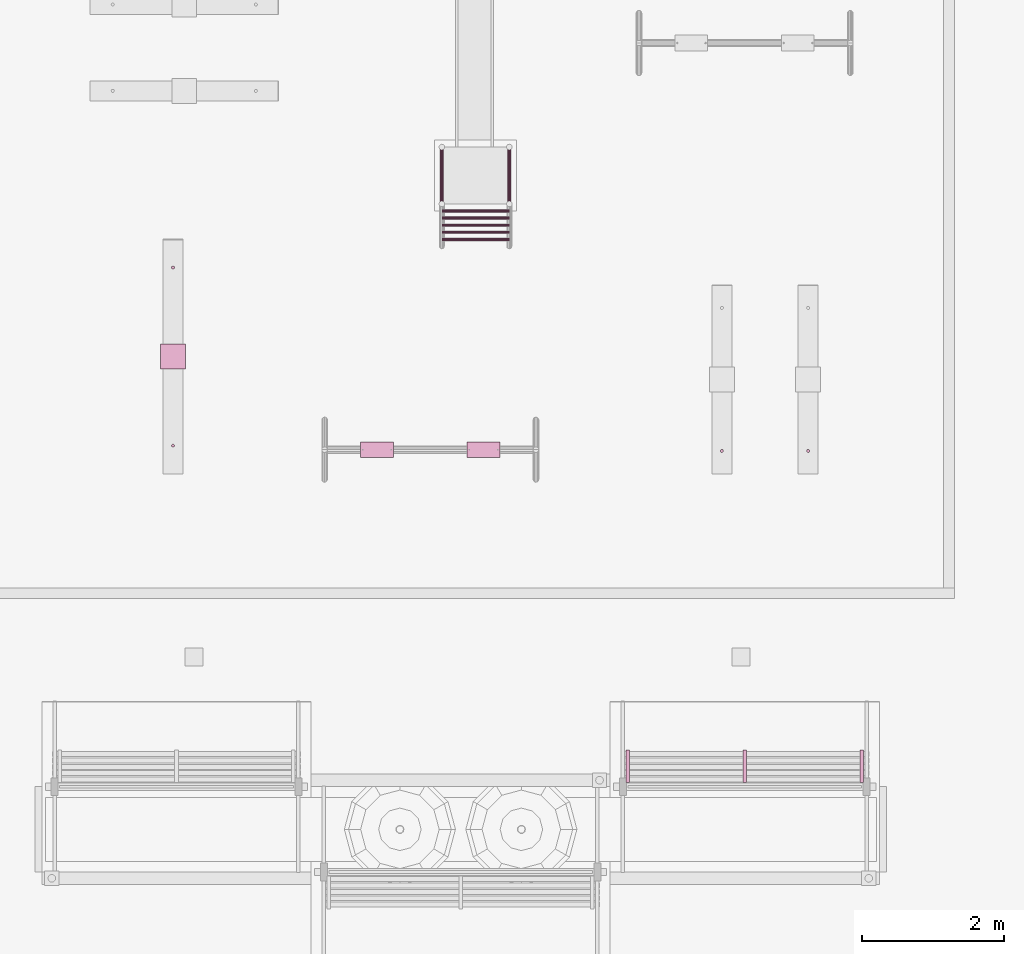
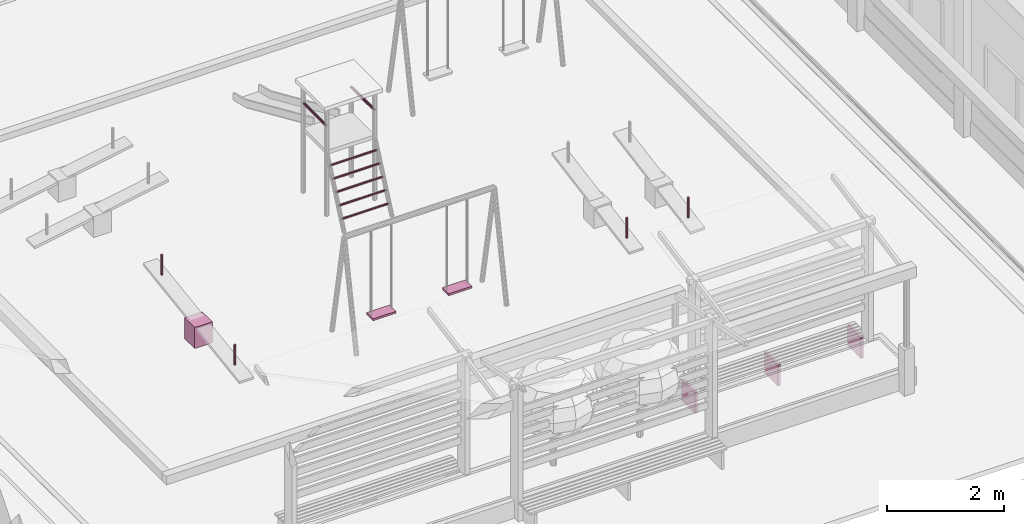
# One storey, part 150 of 177: 17 furnishings.
"""IFC4 building model written with IfcOpenShell, lengths in metres."""

from ifc_helpers import new_model, si_unit, origin, origin_with_axes, place, context, subcontext, project, spatial, triangles, element, save


model = new_model("IFC4")

# Units and contexts
model_context = context("Model", 3, precision=1e-05, world=origin_with_axes())
body_context = subcontext(model_context, "Body", "Model", "MODEL_VIEW")
ifc_project = project(units=[si_unit("LENGTHUNIT", "METRE"), si_unit("AREAUNIT", "SQUARE_METRE"), si_unit("VOLUMEUNIT", "CUBIC_METRE"), si_unit("PLANEANGLEUNIT", "RADIAN")], contexts=[model_context])

# Site, building, storey
site_placement = place(None, origin_with_axes())
site = spatial("IfcSite", under=ifc_project, at=site_placement, Name="Predio Los Mangos - Morales, San Martín", CompositionType="ELEMENT")
building_placement = place(site_placement, origin())
building = spatial("IfcBuilding", under=site, at=building_placement, Name="Hogar de Refugio Temporal", CompositionType="ELEMENT")
storey_placement = place(building_placement, origin())
storey = spatial("IfcBuildingStorey", under=building, at=storey_placement, Name="NIVEL 1 (NPT +0.00)", CompositionType="ELEMENT", Elevation=0.0)

# Furnishings
furnishing_1_placement = place(storey_placement, origin())
element("IfcFurnishingElement", 1, at=furnishing_1_placement, inside=storey, Name="balancin_manija", ObjectType="Mobiliario exterior / juegos", context=body_context, shape_type="Tessellation", body=[
    triangles([(38.4772, 79.704, 0.3876), (38.4772, 79.704, 0.8076), (38.4662, 79.7069, 0.3876), (38.4662, 79.7069, 0.8076), (38.4582, 79.715, 0.3876), (38.4582, 79.715, 0.8076), (38.4552, 79.726, 0.3876), (38.4552, 79.726, 0.8076), (38.4582, 79.737, 0.3876), (38.4582, 79.737, 0.8076), (38.4662, 79.745, 0.3876), (38.4662, 79.745, 0.8076), (38.4772, 79.748, 0.3876), (38.4772, 79.748, 0.8076), (38.4883, 79.745, 0.3876), (38.4883, 79.745, 0.8076), (38.4963, 79.737, 0.3876), (38.4963, 79.737, 0.8076), (38.4992, 79.726, 0.3876), (38.4992, 79.726, 0.8076), (38.4963, 79.715, 0.3876), (38.4963, 79.715, 0.8076), (38.4883, 79.7069, 0.3876), (38.4883, 79.7069, 0.8076)], [[1, 2, 4], [1, 4, 3], [3, 4, 6], [3, 6, 5], [5, 6, 8], [5, 8, 7], [7, 8, 10], [7, 10, 9], [9, 10, 12], [9, 12, 11], [11, 12, 14], [11, 14, 13], [13, 14, 16], [13, 16, 15], [15, 16, 18], [15, 18, 17], [17, 18, 20], [17, 20, 19], [19, 20, 22], [19, 22, 21], [6, 4, 2], [2, 24, 22], [22, 20, 18], [18, 16, 14], [14, 12, 10], [10, 8, 6], [6, 2, 22], [22, 18, 14], [14, 10, 6], [22, 14, 6], [21, 22, 24], [21, 24, 23], [23, 24, 2], [23, 2, 1], [23, 1, 3], [3, 5, 7], [7, 9, 11], [11, 13, 15], [15, 17, 19], [19, 21, 23], [23, 3, 7], [7, 11, 15], [15, 19, 23], [7, 15, 23]]),
])
furnishing_2_placement = place(storey_placement, origin())
element("IfcFurnishingElement", 2, at=furnishing_2_placement, inside=storey, Name="balancin_manija", ObjectType="Mobiliario exterior / juegos", context=body_context, shape_type="Tessellation", body=[
    triangles([(39.6917, 79.704, 0.3876), (39.6917, 79.704, 0.8076), (39.6807, 79.7069, 0.3876), (39.6807, 79.7069, 0.8076), (39.6727, 79.715, 0.3876), (39.6727, 79.715, 0.8076), (39.6698, 79.726, 0.3876), (39.6698, 79.726, 0.8076), (39.6727, 79.737, 0.3876), (39.6727, 79.737, 0.8076), (39.6807, 79.745, 0.3876), (39.6807, 79.745, 0.8076), (39.6917, 79.748, 0.3876), (39.6917, 79.748, 0.8076), (39.7028, 79.745, 0.3876), (39.7028, 79.745, 0.8076), (39.7108, 79.737, 0.3876), (39.7108, 79.737, 0.8076), (39.7137, 79.726, 0.3876), (39.7137, 79.726, 0.8076), (39.7108, 79.715, 0.3876), (39.7108, 79.715, 0.8076), (39.7028, 79.7069, 0.3876), (39.7028, 79.7069, 0.8076)], [[1, 2, 4], [1, 4, 3], [3, 4, 6], [3, 6, 5], [5, 6, 8], [5, 8, 7], [7, 8, 10], [7, 10, 9], [9, 10, 12], [9, 12, 11], [11, 12, 14], [11, 14, 13], [13, 14, 16], [13, 16, 15], [15, 16, 18], [15, 18, 17], [17, 18, 20], [17, 20, 19], [19, 20, 22], [19, 22, 21], [6, 4, 2], [2, 24, 22], [22, 20, 18], [18, 16, 14], [14, 12, 10], [10, 8, 6], [6, 2, 22], [22, 18, 14], [14, 10, 6], [22, 14, 6], [21, 22, 24], [21, 24, 23], [23, 24, 2], [23, 2, 1], [23, 1, 3], [3, 5, 7], [7, 9, 11], [11, 13, 15], [15, 17, 19], [19, 21, 23], [23, 3, 7], [7, 11, 15], [15, 19, 23], [7, 15, 23]]),
])
furnishing_3_placement = place(storey_placement, origin())
element("IfcFurnishingElement", 3, at=furnishing_3_placement, inside=storey, Name="peldano", ObjectType="Mobiliario exterior / juegos", context=body_context, shape_type="Tessellation", body=[
    triangles([(34.535, 82.704, 0.37), (35.485, 82.704, 0.37), (34.535, 82.714, 0.3673), (35.485, 82.714, 0.3673), (34.535, 82.7213, 0.36), (35.485, 82.7213, 0.36), (34.535, 82.724, 0.35), (35.485, 82.724, 0.35), (34.535, 82.7213, 0.34), (35.485, 82.7213, 0.34), (34.535, 82.714, 0.3327), (35.485, 82.714, 0.3327), (34.535, 82.704, 0.33), (35.485, 82.704, 0.33), (34.535, 82.694, 0.3327), (35.485, 82.694, 0.3327), (34.535, 82.6867, 0.34), (35.485, 82.6867, 0.34), (34.535, 82.684, 0.35), (35.485, 82.684, 0.35), (34.535, 82.6867, 0.36), (35.485, 82.6867, 0.36), (34.535, 82.694, 0.3673), (35.485, 82.694, 0.3673)], [[1, 2, 4], [1, 4, 3], [3, 4, 6], [3, 6, 5], [5, 6, 8], [5, 8, 7], [7, 8, 10], [7, 10, 9], [9, 10, 12], [9, 12, 11], [11, 12, 14], [11, 14, 13], [13, 14, 16], [13, 16, 15], [15, 16, 18], [15, 18, 17], [17, 18, 20], [17, 20, 19], [19, 20, 22], [19, 22, 21], [6, 4, 2], [2, 24, 22], [22, 20, 18], [18, 16, 14], [14, 12, 10], [10, 8, 6], [6, 2, 22], [22, 18, 14], [14, 10, 6], [22, 14, 6], [21, 22, 24], [21, 24, 23], [23, 24, 2], [23, 2, 1], [23, 1, 3], [3, 5, 7], [7, 9, 11], [11, 13, 15], [15, 17, 19], [19, 21, 23], [23, 3, 7], [7, 11, 15], [15, 19, 23], [7, 15, 23]]),
])
furnishing_4_placement = place(storey_placement, origin())
element("IfcFurnishingElement", 4, at=furnishing_4_placement, inside=storey, Name="peldano", ObjectType="Mobiliario exterior / juegos", context=body_context, shape_type="Tessellation", body=[
    triangles([(34.535, 82.804, 0.59), (35.485, 82.804, 0.59), (34.535, 82.814, 0.5873), (35.485, 82.814, 0.5873), (34.535, 82.8213, 0.58), (35.485, 82.8213, 0.58), (34.535, 82.824, 0.57), (35.485, 82.824, 0.57), (34.535, 82.8213, 0.56), (35.485, 82.8213, 0.56), (34.535, 82.814, 0.5527), (35.485, 82.814, 0.5527), (34.535, 82.804, 0.55), (35.485, 82.804, 0.55), (34.535, 82.794, 0.5527), (35.485, 82.794, 0.5527), (34.535, 82.7867, 0.56), (35.485, 82.7867, 0.56), (34.535, 82.784, 0.57), (35.485, 82.784, 0.57), (34.535, 82.7867, 0.58), (35.485, 82.7867, 0.58), (34.535, 82.794, 0.5873), (35.485, 82.794, 0.5873)], [[1, 2, 4], [1, 4, 3], [3, 4, 6], [3, 6, 5], [5, 6, 8], [5, 8, 7], [7, 8, 10], [7, 10, 9], [9, 10, 12], [9, 12, 11], [11, 12, 14], [11, 14, 13], [13, 14, 16], [13, 16, 15], [15, 16, 18], [15, 18, 17], [17, 18, 20], [17, 20, 19], [19, 20, 22], [19, 22, 21], [6, 4, 2], [2, 24, 22], [22, 20, 18], [18, 16, 14], [14, 12, 10], [10, 8, 6], [6, 2, 22], [22, 18, 14], [14, 10, 6], [22, 14, 6], [21, 22, 24], [21, 24, 23], [23, 24, 2], [23, 2, 1], [23, 1, 3], [3, 5, 7], [7, 9, 11], [11, 13, 15], [15, 17, 19], [19, 21, 23], [23, 3, 7], [7, 11, 15], [15, 19, 23], [7, 15, 23]]),
])
furnishing_5_placement = place(storey_placement, origin())
element("IfcFurnishingElement", 5, at=furnishing_5_placement, inside=storey, Name="peldano", ObjectType="Mobiliario exterior / juegos", context=body_context, shape_type="Tessellation", body=[
    triangles([(34.535, 82.904, 0.81), (35.485, 82.904, 0.81), (34.535, 82.914, 0.8073), (35.485, 82.914, 0.8073), (34.535, 82.9213, 0.8), (35.485, 82.9213, 0.8), (34.535, 82.924, 0.79), (35.485, 82.924, 0.79), (34.535, 82.9213, 0.78), (35.485, 82.9213, 0.78), (34.535, 82.914, 0.7727), (35.485, 82.914, 0.7727), (34.535, 82.904, 0.77), (35.485, 82.904, 0.77), (34.535, 82.894, 0.7727), (35.485, 82.894, 0.7727), (34.535, 82.8867, 0.78), (35.485, 82.8867, 0.78), (34.535, 82.884, 0.79), (35.485, 82.884, 0.79), (34.535, 82.8867, 0.8), (35.485, 82.8867, 0.8), (34.535, 82.894, 0.8073), (35.485, 82.894, 0.8073)], [[1, 2, 4], [1, 4, 3], [3, 4, 6], [3, 6, 5], [5, 6, 8], [5, 8, 7], [7, 8, 10], [7, 10, 9], [9, 10, 12], [9, 12, 11], [11, 12, 14], [11, 14, 13], [13, 14, 16], [13, 16, 15], [15, 16, 18], [15, 18, 17], [17, 18, 20], [17, 20, 19], [19, 20, 22], [19, 22, 21], [6, 4, 2], [2, 24, 22], [22, 20, 18], [18, 16, 14], [14, 12, 10], [10, 8, 6], [6, 2, 22], [22, 18, 14], [14, 10, 6], [22, 14, 6], [21, 22, 24], [21, 24, 23], [23, 24, 2], [23, 2, 1], [23, 1, 3], [3, 5, 7], [7, 9, 11], [11, 13, 15], [15, 17, 19], [19, 21, 23], [23, 3, 7], [7, 11, 15], [15, 19, 23], [7, 15, 23]]),
])
furnishing_6_placement = place(storey_placement, origin())
element("IfcFurnishingElement", 6, at=furnishing_6_placement, inside=storey, Name="peldano", ObjectType="Mobiliario exterior / juegos", context=body_context, shape_type="Tessellation", body=[
    triangles([(34.535, 83.004, 1.03), (35.485, 83.004, 1.03), (34.535, 83.014, 1.0273), (35.485, 83.014, 1.0273), (34.535, 83.0213, 1.02), (35.485, 83.0213, 1.02), (34.535, 83.024, 1.01), (35.485, 83.024, 1.01), (34.535, 83.0213, 1.0), (35.485, 83.0213, 1.0), (34.535, 83.014, 0.9927), (35.485, 83.014, 0.9927), (34.535, 83.004, 0.99), (35.485, 83.004, 0.99), (34.535, 82.994, 0.9927), (35.485, 82.994, 0.9927), (34.535, 82.9867, 1.0), (35.485, 82.9867, 1.0), (34.535, 82.984, 1.01), (35.485, 82.984, 1.01), (34.535, 82.9867, 1.02), (35.485, 82.9867, 1.02), (34.535, 82.994, 1.0273), (35.485, 82.994, 1.0273)], [[1, 2, 4], [1, 4, 3], [3, 4, 6], [3, 6, 5], [5, 6, 8], [5, 8, 7], [7, 8, 10], [7, 10, 9], [9, 10, 12], [9, 12, 11], [11, 12, 14], [11, 14, 13], [13, 14, 16], [13, 16, 15], [15, 16, 18], [15, 18, 17], [17, 18, 20], [17, 20, 19], [19, 20, 22], [19, 22, 21], [6, 4, 2], [2, 24, 22], [22, 20, 18], [18, 16, 14], [14, 12, 10], [10, 8, 6], [6, 2, 22], [22, 18, 14], [14, 10, 6], [22, 14, 6], [21, 22, 24], [21, 24, 23], [23, 24, 2], [23, 2, 1], [23, 1, 3], [3, 5, 7], [7, 9, 11], [11, 13, 15], [15, 17, 19], [19, 21, 23], [23, 3, 7], [7, 11, 15], [15, 19, 23], [7, 15, 23]]),
])
furnishing_7_placement = place(storey_placement, origin())
element("IfcFurnishingElement", 7, at=furnishing_7_placement, inside=storey, Name="peldano", ObjectType="Mobiliario exterior / juegos", context=body_context, shape_type="Tessellation", body=[
    triangles([(34.535, 83.104, 1.25), (35.485, 83.104, 1.25), (34.535, 83.114, 1.2473), (35.485, 83.114, 1.2473), (34.535, 83.1213, 1.24), (35.485, 83.1213, 1.24), (34.535, 83.124, 1.23), (35.485, 83.124, 1.23), (34.535, 83.1213, 1.22), (35.485, 83.1213, 1.22), (34.535, 83.114, 1.2127), (35.485, 83.114, 1.2127), (34.535, 83.104, 1.21), (35.485, 83.104, 1.21), (34.535, 83.094, 1.2127), (35.485, 83.094, 1.2127), (34.535, 83.0867, 1.22), (35.485, 83.0867, 1.22), (34.535, 83.084, 1.23), (35.485, 83.084, 1.23), (34.535, 83.0867, 1.24), (35.485, 83.0867, 1.24), (34.535, 83.094, 1.2473), (35.485, 83.094, 1.2473)], [[1, 2, 4], [1, 4, 3], [3, 4, 6], [3, 6, 5], [5, 6, 8], [5, 8, 7], [7, 8, 10], [7, 10, 9], [9, 10, 12], [9, 12, 11], [11, 12, 14], [11, 14, 13], [13, 14, 16], [13, 16, 15], [15, 16, 18], [15, 18, 17], [17, 18, 20], [17, 20, 19], [19, 20, 22], [19, 22, 21], [6, 4, 2], [2, 24, 22], [22, 20, 18], [18, 16, 14], [14, 12, 10], [10, 8, 6], [6, 2, 22], [22, 18, 14], [14, 10, 6], [22, 14, 6], [21, 22, 24], [21, 24, 23], [23, 24, 2], [23, 2, 1], [23, 1, 3], [3, 5, 7], [7, 9, 11], [11, 13, 15], [15, 17, 19], [19, 21, 23], [23, 3, 7], [7, 11, 15], [15, 19, 23], [7, 15, 23]]),
])
furnishing_8_placement = place(storey_placement, origin())
element("IfcFurnishingElement", 8, at=furnishing_8_placement, inside=storey, Name="baranda", ObjectType="Mobiliario exterior / juegos", context=body_context, shape_type="Tessellation", body=[
    triangles([(34.535, 83.204, 2.025), (34.535, 84.004, 2.025), (34.5225, 83.204, 2.0217), (34.5225, 84.004, 2.0217), (34.5133, 83.204, 2.0125), (34.5133, 84.004, 2.0125), (34.51, 83.204, 2.0), (34.51, 84.004, 2.0), (34.5133, 83.204, 1.9875), (34.5133, 84.004, 1.9875), (34.5225, 83.204, 1.9783), (34.5225, 84.004, 1.9783), (34.535, 83.204, 1.975), (34.535, 84.004, 1.975), (34.5475, 83.204, 1.9783), (34.5475, 84.004, 1.9783), (34.5567, 83.204, 1.9875), (34.5567, 84.004, 1.9875), (34.56, 83.204, 2.0), (34.56, 84.004, 2.0), (34.5567, 83.204, 2.0125), (34.5567, 84.004, 2.0125), (34.5475, 83.204, 2.0217), (34.5475, 84.004, 2.0217)], [[1, 2, 4], [1, 4, 3], [3, 4, 6], [3, 6, 5], [5, 6, 8], [5, 8, 7], [7, 8, 10], [7, 10, 9], [9, 10, 12], [9, 12, 11], [11, 12, 14], [11, 14, 13], [13, 14, 16], [13, 16, 15], [15, 16, 18], [15, 18, 17], [17, 18, 20], [17, 20, 19], [19, 20, 22], [19, 22, 21], [6, 4, 2], [2, 24, 22], [22, 20, 18], [18, 16, 14], [14, 12, 10], [10, 8, 6], [6, 2, 22], [22, 18, 14], [14, 10, 6], [22, 14, 6], [21, 22, 24], [21, 24, 23], [23, 24, 2], [23, 2, 1], [23, 1, 3], [3, 5, 7], [7, 9, 11], [11, 13, 15], [15, 17, 19], [19, 21, 23], [23, 3, 7], [7, 11, 15], [15, 19, 23], [7, 15, 23]]),
])
furnishing_9_placement = place(storey_placement, origin())
element("IfcFurnishingElement", 9, at=furnishing_9_placement, inside=storey, Name="baranda", ObjectType="Mobiliario exterior / juegos", context=body_context, shape_type="Tessellation", body=[
    triangles([(35.485, 83.204, 2.025), (35.485, 84.004, 2.025), (35.4725, 83.204, 2.0217), (35.4725, 84.004, 2.0217), (35.4633, 83.204, 2.0125), (35.4633, 84.004, 2.0125), (35.46, 83.204, 2.0), (35.46, 84.004, 2.0), (35.4633, 83.204, 1.9875), (35.4633, 84.004, 1.9875), (35.4725, 83.204, 1.9783), (35.4725, 84.004, 1.9783), (35.485, 83.204, 1.975), (35.485, 84.004, 1.975), (35.4975, 83.204, 1.9783), (35.4975, 84.004, 1.9783), (35.5067, 83.204, 1.9875), (35.5067, 84.004, 1.9875), (35.51, 83.204, 2.0), (35.51, 84.004, 2.0), (35.5067, 83.204, 2.0125), (35.5067, 84.004, 2.0125), (35.4975, 83.204, 2.0217), (35.4975, 84.004, 2.0217)], [[1, 2, 4], [1, 4, 3], [3, 4, 6], [3, 6, 5], [5, 6, 8], [5, 8, 7], [7, 8, 10], [7, 10, 9], [9, 10, 12], [9, 12, 11], [11, 12, 14], [11, 14, 13], [13, 14, 16], [13, 16, 15], [15, 16, 18], [15, 18, 17], [17, 18, 20], [17, 20, 19], [19, 20, 22], [19, 22, 21], [6, 4, 2], [2, 24, 22], [22, 20, 18], [18, 16, 14], [14, 12, 10], [10, 8, 6], [6, 2, 22], [22, 18, 14], [14, 10, 6], [22, 14, 6], [21, 22, 24], [21, 24, 23], [23, 24, 2], [23, 2, 1], [23, 1, 3], [3, 5, 7], [7, 9, 11], [11, 13, 15], [15, 17, 19], [19, 21, 23], [23, 3, 7], [7, 11, 15], [15, 19, 23], [7, 15, 23]]),
])
furnishing_10_placement = place(storey_placement, origin())
element("IfcFurnishingElement", 10, at=furnishing_10_placement, inside=storey, Name="balancin_base", ObjectType="Mobiliario exterior / juegos", context=body_context, shape_type="Tessellation", body=[
    triangles([(30.576, 80.8785, 0.13), (30.926, 80.8785, 0.13), (30.926, 81.2285, 0.13), (30.576, 81.2285, 0.13), (30.576, 80.8785, 0.57), (30.926, 80.8785, 0.57), (30.926, 81.2285, 0.57), (30.576, 81.2285, 0.57)], [[1, 4, 3], [1, 3, 2], [5, 6, 7], [5, 7, 8], [1, 2, 6], [1, 6, 5], [2, 3, 7], [2, 7, 6], [3, 4, 8], [3, 8, 7], [4, 1, 5], [4, 5, 8]]),
])
furnishing_11_placement = place(storey_placement, origin())
element("IfcFurnishingElement", 11, at=furnishing_11_placement, inside=storey, Name="balancin_manija", ObjectType="Mobiliario exterior / juegos", context=body_context, shape_type="Tessellation", body=[
    triangles([(30.751, 79.7779, 0.3876), (30.751, 79.7779, 0.8076), (30.74, 79.7808, 0.3876), (30.74, 79.7808, 0.8076), (30.7319, 79.7889, 0.3876), (30.7319, 79.7889, 0.8076), (30.729, 79.7999, 0.3876), (30.729, 79.7999, 0.8076), (30.7319, 79.8109, 0.3876), (30.7319, 79.8109, 0.8076), (30.74, 79.8189, 0.3876), (30.74, 79.8189, 0.8076), (30.751, 79.8219, 0.3876), (30.751, 79.8219, 0.8076), (30.762, 79.8189, 0.3876), (30.762, 79.8189, 0.8076), (30.7701, 79.8109, 0.3876), (30.7701, 79.8109, 0.8076), (30.773, 79.7999, 0.3876), (30.773, 79.7999, 0.8076), (30.7701, 79.7889, 0.3876), (30.7701, 79.7889, 0.8076), (30.762, 79.7808, 0.3876), (30.762, 79.7808, 0.8076)], [[1, 2, 4], [1, 4, 3], [3, 4, 6], [3, 6, 5], [5, 6, 8], [5, 8, 7], [7, 8, 10], [7, 10, 9], [9, 10, 12], [9, 12, 11], [11, 12, 14], [11, 14, 13], [13, 14, 16], [13, 16, 15], [15, 16, 18], [15, 18, 17], [17, 18, 20], [17, 20, 19], [19, 20, 22], [19, 22, 21], [6, 4, 2], [2, 24, 22], [22, 20, 18], [18, 16, 14], [14, 12, 10], [10, 8, 6], [6, 2, 22], [22, 18, 14], [14, 10, 6], [22, 14, 6], [21, 22, 24], [21, 24, 23], [23, 24, 2], [23, 2, 1], [23, 1, 3], [3, 5, 7], [7, 9, 11], [11, 13, 15], [15, 17, 19], [19, 21, 23], [23, 3, 7], [7, 11, 15], [15, 19, 23], [7, 15, 23]]),
])
furnishing_12_placement = place(storey_placement, origin())
element("IfcFurnishingElement", 12, at=furnishing_12_placement, inside=storey, Name="balancin_manija", ObjectType="Mobiliario exterior / juegos", context=body_context, shape_type="Tessellation", body=[
    triangles([(30.751, 82.2851, 0.7524), (30.751, 82.2851, 1.1724), (30.74, 82.2881, 0.7524), (30.74, 82.2881, 1.1724), (30.7319, 82.2961, 0.7524), (30.7319, 82.2961, 1.1724), (30.729, 82.3071, 0.7524), (30.729, 82.3071, 1.1724), (30.7319, 82.3181, 0.7524), (30.7319, 82.3181, 1.1724), (30.74, 82.3262, 0.7524), (30.74, 82.3262, 1.1724), (30.751, 82.3291, 0.7524), (30.751, 82.3291, 1.1724), (30.762, 82.3262, 0.7524), (30.762, 82.3262, 1.1724), (30.7701, 82.3181, 0.7524), (30.7701, 82.3181, 1.1724), (30.773, 82.3071, 0.7524), (30.773, 82.3071, 1.1724), (30.7701, 82.2961, 0.7524), (30.7701, 82.2961, 1.1724), (30.762, 82.2881, 0.7524), (30.762, 82.2881, 1.1724)], [[1, 2, 4], [1, 4, 3], [3, 4, 6], [3, 6, 5], [5, 6, 8], [5, 8, 7], [7, 8, 10], [7, 10, 9], [9, 10, 12], [9, 12, 11], [11, 12, 14], [11, 14, 13], [13, 14, 16], [13, 16, 15], [15, 16, 18], [15, 18, 17], [17, 18, 20], [17, 20, 19], [19, 20, 22], [19, 22, 21], [6, 4, 2], [2, 24, 22], [22, 20, 18], [18, 16, 14], [14, 12, 10], [10, 8, 6], [6, 2, 22], [22, 18, 14], [14, 10, 6], [22, 14, 6], [21, 22, 24], [21, 24, 23], [23, 24, 2], [23, 2, 1], [23, 1, 3], [3, 5, 7], [7, 9, 11], [11, 13, 15], [15, 17, 19], [19, 21, 23], [23, 3, 7], [7, 11, 15], [15, 19, 23], [7, 15, 23]]),
])
furnishing_13_placement = place(storey_placement, origin())
element("IfcFurnishingElement", 13, at=furnishing_13_placement, inside=storey, Name="columpio_asiento", ObjectType="Mobiliario exterior / juegos", context=body_context, shape_type="Tessellation", body=[
    triangles([(33.3925, 79.634, 0.48), (33.8525, 79.634, 0.48), (33.8525, 79.854, 0.48), (33.3925, 79.854, 0.48), (33.3925, 79.634, 0.52), (33.8525, 79.634, 0.52), (33.8525, 79.854, 0.52), (33.3925, 79.854, 0.52)], [[1, 4, 3], [1, 3, 2], [5, 6, 7], [5, 7, 8], [1, 2, 6], [1, 6, 5], [2, 3, 7], [2, 7, 6], [3, 4, 8], [3, 8, 7], [4, 1, 5], [4, 5, 8]]),
])
furnishing_14_placement = place(storey_placement, origin())
element("IfcFurnishingElement", 14, at=furnishing_14_placement, inside=storey, Name="columpio_asiento", ObjectType="Mobiliario exterior / juegos", context=body_context, shape_type="Tessellation", body=[
    triangles([(34.8925, 79.634, 0.48), (35.3525, 79.634, 0.48), (35.3525, 79.854, 0.48), (34.8925, 79.854, 0.48), (34.8925, 79.634, 0.52), (35.3525, 79.634, 0.52), (35.3525, 79.854, 0.52), (34.8925, 79.854, 0.52)], [[1, 4, 3], [1, 3, 2], [5, 6, 7], [5, 7, 8], [1, 2, 6], [1, 6, 5], [2, 3, 7], [2, 7, 6], [3, 4, 8], [3, 8, 7], [4, 1, 5], [4, 5, 8]]),
])
furnishing_15_placement = place(storey_placement, origin())
element("IfcFurnishingElement", 15, at=furnishing_15_placement, inside=storey, Name="oc01_pata", ObjectType="Mobiliario exterior / juegos", context=body_context, shape_type="Tessellation", body=[
    triangles([(40.47, 75.52, 0.0), (40.42, 75.52, 0.0), (40.42, 75.06, 0.0), (40.47, 75.06, 0.0), (40.47, 75.52, 0.44), (40.42, 75.52, 0.44), (40.42, 75.06, 0.44), (40.47, 75.06, 0.44)], [[1, 4, 3], [1, 3, 2], [5, 6, 7], [5, 7, 8], [1, 2, 6], [1, 6, 5], [2, 3, 7], [2, 7, 6], [3, 4, 8], [3, 8, 7], [4, 1, 5], [4, 5, 8]]),
])
furnishing_16_placement = place(storey_placement, origin())
element("IfcFurnishingElement", 16, at=furnishing_16_placement, inside=storey, Name="oc01_pata", ObjectType="Mobiliario exterior / juegos", context=body_context, shape_type="Tessellation", body=[
    triangles([(38.825, 75.52, 0.0), (38.775, 75.52, 0.0), (38.775, 75.06, 0.0), (38.825, 75.06, 0.0), (38.825, 75.52, 0.44), (38.775, 75.52, 0.44), (38.775, 75.06, 0.44), (38.825, 75.06, 0.44)], [[1, 4, 3], [1, 3, 2], [5, 6, 7], [5, 7, 8], [1, 2, 6], [1, 6, 5], [2, 3, 7], [2, 7, 6], [3, 4, 8], [3, 8, 7], [4, 1, 5], [4, 5, 8]]),
])
furnishing_17_placement = place(storey_placement, origin())
element("IfcFurnishingElement", 17, at=furnishing_17_placement, inside=storey, Name="oc01_pata", ObjectType="Mobiliario exterior / juegos", context=body_context, shape_type="Tessellation", body=[
    triangles([(37.18, 75.52, 0.0), (37.13, 75.52, 0.0), (37.13, 75.06, 0.0), (37.18, 75.06, 0.0), (37.18, 75.52, 0.44), (37.13, 75.52, 0.44), (37.13, 75.06, 0.44), (37.18, 75.06, 0.44)], [[1, 4, 3], [1, 3, 2], [5, 6, 7], [5, 7, 8], [1, 2, 6], [1, 6, 5], [2, 3, 7], [2, 7, 6], [3, 4, 8], [3, 8, 7], [4, 1, 5], [4, 5, 8]]),
])

save(model, "model.ifc")
